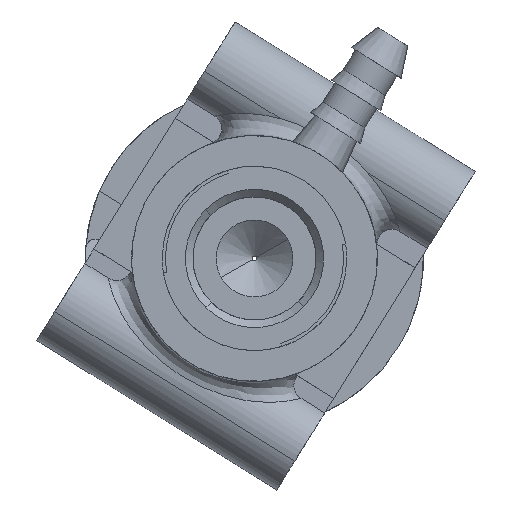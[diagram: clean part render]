
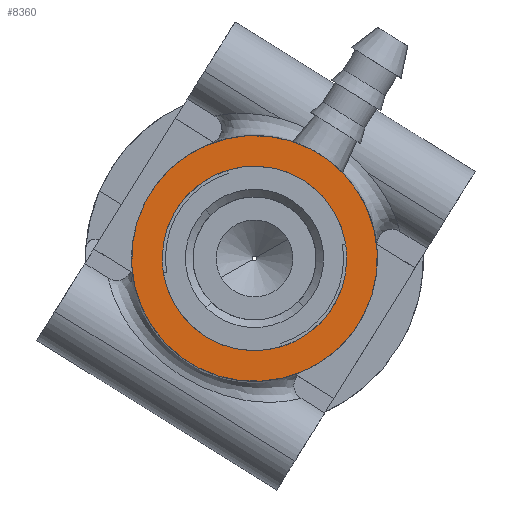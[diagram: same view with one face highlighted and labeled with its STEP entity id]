
A CAD part, front view. The second image highlights one B-rep face of the part: STEP entity #8360.
In plain terms, the highlighted planar face has unit normal (0, -1, 0).
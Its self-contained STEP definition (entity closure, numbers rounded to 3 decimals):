
#8262=AXIS2_PLACEMENT_3D('Circle Axis2P3D',#8260,#8261,$) ;
#8299=AXIS2_PLACEMENT_3D('Circle Axis2P3D',#8297,#8298,$) ;
#8336=AXIS2_PLACEMENT_3D('Plane Axis2P3D',#8333,#8334,#8335) ;
#8344=AXIS2_PLACEMENT_3D('Circle Axis2P3D',#8342,#8343,$) ;
#8353=AXIS2_PLACEMENT_3D('Circle Axis2P3D',#8351,#8352,$) ;
#8250=CARTESIAN_POINT('Vertex',(-186.882,-1373.001,344.406)) ;
#8257=CARTESIAN_POINT('Vertex',(-171.57,-1373.001,339.765)) ;
#8260=CARTESIAN_POINT('Axis2P3D Location',(-179.226,-1373.001,342.086)) ;
#8297=CARTESIAN_POINT('Axis2P3D Location',(-179.226,-1373.001,342.086)) ;
#8333=CARTESIAN_POINT('Axis2P3D Location',(0.,-1373.001,0.)) ;
#8342=CARTESIAN_POINT('Axis2P3D Location',(-179.226,-1373.001,342.086)) ;
#8346=CARTESIAN_POINT('Vertex',(-185.226,-1373.001,342.086)) ;
#8348=CARTESIAN_POINT('Vertex',(-173.226,-1373.001,342.086)) ;
#8351=CARTESIAN_POINT('Axis2P3D Location',(-179.226,-1373.001,342.086)) ;
#8261=DIRECTION('Axis2P3D Direction',(0.,1.,0.)) ;
#8298=DIRECTION('Axis2P3D Direction',(0.,1.,0.)) ;
#8334=DIRECTION('Axis2P3D Direction',(0.,-1.,0.)) ;
#8335=DIRECTION('Axis2P3D XDirection',(1.,0.,0.)) ;
#8343=DIRECTION('Axis2P3D Direction',(0.,-1.,0.)) ;
#8352=DIRECTION('Axis2P3D Direction',(0.,-1.,0.)) ;
#8339=ORIENTED_EDGE('',*,*,#8264,.T.) ;
#8340=ORIENTED_EDGE('',*,*,#8301,.T.) ;
#8357=ORIENTED_EDGE('',*,*,#8350,.F.) ;
#8358=ORIENTED_EDGE('',*,*,#8355,.F.) ;
#8359=FACE_BOUND('',#8356,.T.) ;
#8360=ADVANCED_FACE('MANIFOLD_SOLID_BREP #410',(#8341,#8359),#8337,.T.) ;
#8263=CIRCLE('generated circle',#8262,8.) ;
#8300=CIRCLE('generated circle',#8299,8.) ;
#8345=CIRCLE('generated circle',#8344,6.) ;
#8354=CIRCLE('generated circle',#8353,6.) ;
#8264=EDGE_CURVE('',#8251,#8258,#8263,.F.) ;
#8301=EDGE_CURVE('',#8258,#8251,#8300,.F.) ;
#8350=EDGE_CURVE('',#8347,#8349,#8345,.T.) ;
#8355=EDGE_CURVE('',#8349,#8347,#8354,.T.) ;
#8338=EDGE_LOOP('',(#8339,#8340)) ;
#8356=EDGE_LOOP('',(#8357,#8358)) ;
#8341=FACE_OUTER_BOUND('',#8338,.T.) ;
#8337=PLANE('Plane',#8336) ;
#8251=VERTEX_POINT('',#8250) ;
#8258=VERTEX_POINT('',#8257) ;
#8347=VERTEX_POINT('',#8346) ;
#8349=VERTEX_POINT('',#8348) ;
